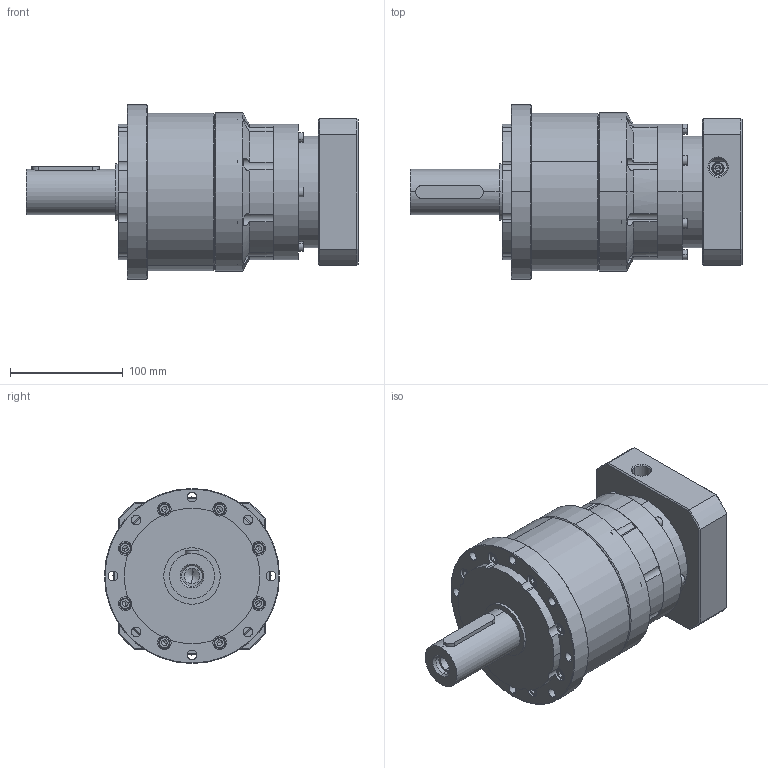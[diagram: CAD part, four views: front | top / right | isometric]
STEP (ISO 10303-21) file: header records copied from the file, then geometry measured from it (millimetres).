
FILE_DESCRIPTION (( 'STEP AP203' ), '1' );
FILE_NAME ('6C5XT.110130.142.STEP', '2019-06-12T04:03:57', ( '' ), ( '' ), 'SwSTEP 2.0', 'SolidWorks 2010', '' );
FILE_SCHEMA (( 'CONFIG_CONTROL_DESIGN' ));
Length unit declared in the file: millimetre
Products named in the file (11): PGCH155T-EB(模型)_PGH142T-3,4,5,7,10比(插齒); PGH142-B(模型)_PGH142-3,4,5,7,10比; 沉頭內六角M6xP1.0x18_內六角螺絲M6xP1.0x18L; 6C5XT.110130.142; PGCH120-BP(模型)_2銑工; 234BC45310_銑工; M5-0.8-30內六角螺絲; PGCH155-FP(模型)_4.精車; 雙圓鍵12x8x60; 沉頭內六角M6xP1.0x30_內六角螺絲M6xP1.0x20L; 沉頭內六角M6xP1.0x25_內六角螺絲M6xP1.0x20L
Assembly tree (35 placements, depth 2):
  6C5XT.110130.142
    M5-0.8-30內六角螺絲  x6
    沉頭內六角M6xP1.0x30_內六角螺絲M6xP1.0x20L  x8
    沉頭內六角M6xP1.0x25_內六角螺絲M6xP1.0x20L  x7
    沉頭內六角M6xP1.0x18_內六角螺絲M6xP1.0x18L  x8
    PGCH120-BP(模型)_2銑工
    PGCH155T-EB(模型)_PGH142T-3,4,5,7,10比(插齒)
    PGCH155-FP(模型)_4.精車
    234BC45310_銑工
    雙圓鍵12x8x60
    PGH142-B(模型)_PGH142-3,4,5,7,10比
Bounding box: 294 x 155 x 155 mm (x, y, z)
Volume: 2909290.3 mm3; surface area: 319071 mm2
Topology: 35 solids, 35 shells, 1152 faces, 2702 edges, 1609 vertices
Faces by surface type: plane 509, cylinder 373, cone 270
Entity records: 18078 total; most frequent: CARTESIAN_POINT 3401, DIRECTION 2955, ORIENTED_EDGE 2480, EDGE_CURVE 1240, AXIS2_PLACEMENT_3D 1201, VERTEX_POINT 789, EDGE_LOOP 653, CIRCLE 641
